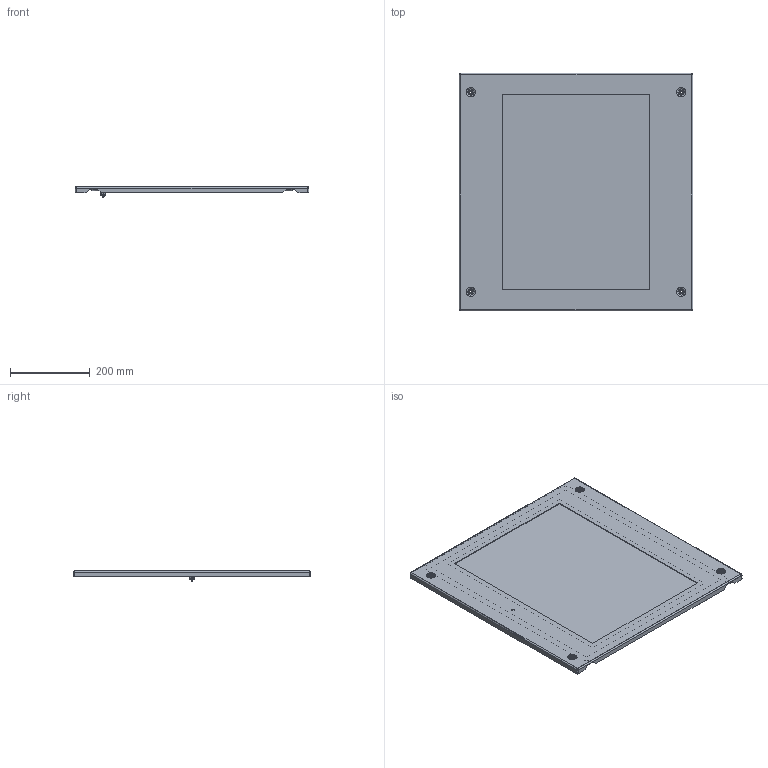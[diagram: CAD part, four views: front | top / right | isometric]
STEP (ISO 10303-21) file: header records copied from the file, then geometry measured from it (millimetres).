
FILE_DESCRIPTION (( 'STEP AP203' ), '1' );
FILE_NAME ('DP 60.60 V Ïàíåëü ñåêöèîííàÿ îáçîðíàÿ.STEP', '2014-06-30T08:29:50', ( 'System' ), ( '' ), 'SwSTEP 2.0', 'SolidWorks 2012', '' );
FILE_SCHEMA (( 'CONFIG_CONTROL_DESIGN' ));
Length unit declared in the file: millimetre
Products named in the file (1): DP 60.60 V Ïàíåëü ñåêöèîííàÿ îáçîðíàÿ
Bounding box: 585 x 594 x 26 mm (x, y, z)
Volume: 1412325.1 mm3; surface area: 852318.7 mm2
Topology: 4 solids, 4 shells, 176 faces, 401 edges, 240 vertices
Faces by surface type: plane 61, cylinder 43, torus 40, cone 24, sphere 8
Entity records: 4988 total; most frequent: DIRECTION 955, CARTESIAN_POINT 810, ORIENTED_EDGE 786, EDGE_CURVE 393, AXIS2_PLACEMENT_3D 385, VERTEX_POINT 240, CIRCLE 208, EDGE_LOOP 201
